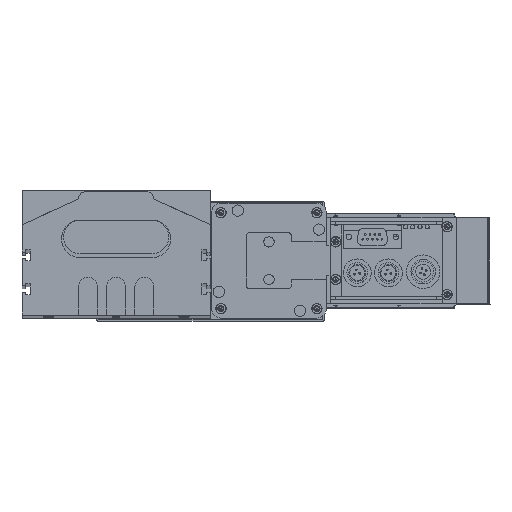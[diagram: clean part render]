
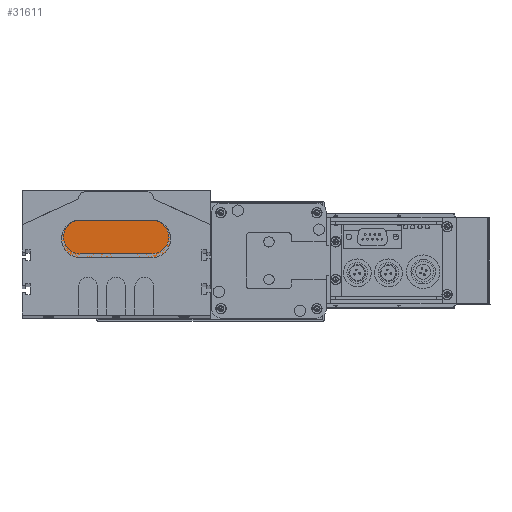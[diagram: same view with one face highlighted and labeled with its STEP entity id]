
A CAD part, top view. The second image highlights one B-rep face of the part: STEP entity #31611.
In plain terms, the highlighted planar face has unit normal (0, 0, 1).
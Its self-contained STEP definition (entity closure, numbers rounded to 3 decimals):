
#18985 = CARTESIAN_POINT ( 'NONE',  ( 38., 0., 10. ) ) ;
#19006 = CIRCLE ( 'NONE', #19052, 10. ) ;
#19010 = CARTESIAN_POINT ( 'NONE',  ( -10., 10., 10. ) ) ;
#19012 = DIRECTION ( 'NONE',  ( 1., 0., 0. ) ) ;
#19013 = DIRECTION ( 'NONE',  ( 0., 0., 1. ) ) ;
#19014 = CARTESIAN_POINT ( 'NONE',  ( 0., 10., 10. ) ) ;
#19018 = AXIS2_PLACEMENT_3D ( 'NONE', #19014, #19013, #19012 ) ;
#19023 = CIRCLE ( 'NONE', #19018, 10. ) ;
#19029 = CARTESIAN_POINT ( 'NONE',  ( 0., 20., 10. ) ) ;
#19050 = DIRECTION ( 'NONE',  ( 1., 0., 0. ) ) ;
#19051 = DIRECTION ( 'NONE',  ( 0., 0., 1. ) ) ;
#19052 = AXIS2_PLACEMENT_3D ( 'NONE', #19068, #19051, #19050 ) ;
#19061 = CARTESIAN_POINT ( 'NONE',  ( 0., 0., 10. ) ) ;
#19068 = CARTESIAN_POINT ( 'NONE',  ( 0., 10., 10. ) ) ;
#19070 = DIRECTION ( 'NONE',  ( -1., 0., 0. ) ) ;
#19071 = DIRECTION ( 'NONE',  ( 0., 0., 1. ) ) ;
#19074 = CARTESIAN_POINT ( 'NONE',  ( 38., 20., 10. ) ) ;
#19081 = CIRCLE ( 'NONE', #19084, 10. ) ;
#19084 = AXIS2_PLACEMENT_3D ( 'NONE', #19100, #19071, #19070 ) ;
#19085 = DIRECTION ( 'NONE',  ( -1., 0., 0. ) ) ;
#19086 = VECTOR ( 'NONE', #19085, 1000. ) ;
#19090 = DIRECTION ( 'NONE',  ( 1., 0., 0. ) ) ;
#19091 = VECTOR ( 'NONE', #19090, 1000. ) ;
#19092 = CARTESIAN_POINT ( 'NONE',  ( 0., 0., 10. ) ) ;
#19093 = LINE ( 'NONE', #19092, #19091 ) ;
#19098 = CARTESIAN_POINT ( 'NONE',  ( 0., 20., 10. ) ) ;
#19099 = LINE ( 'NONE', #19098, #19086 ) ;
#19100 = CARTESIAN_POINT ( 'NONE',  ( 38., 10., 10. ) ) ;
#19106 = FACE_OUTER_BOUND ( 'NONE', #31534, .T. ) ;
#19148 = DIRECTION ( 'NONE',  ( 1., 0., 0. ) ) ;
#19149 = DIRECTION ( 'NONE',  ( 0., 0., 1. ) ) ;
#19150 = CARTESIAN_POINT ( 'NONE',  ( 0., 10., 10. ) ) ;
#19157 = PLANE ( 'NONE',  #19161 ) ;
#19161 = AXIS2_PLACEMENT_3D ( 'NONE', #19150, #19149, #19148 ) ;
#31496 = VERTEX_POINT ( 'NONE', #18985 ) ;
#31509 = VERTEX_POINT ( 'NONE', #19029 ) ;
#31520 = EDGE_CURVE ( 'NONE', #31523, #31527, #19023, .T. ) ;
#31523 = VERTEX_POINT ( 'NONE', #19010 ) ;
#31527 = VERTEX_POINT ( 'NONE', #19061 ) ;
#31528 = EDGE_CURVE ( 'NONE', #31509, #31523, #19006, .T. ) ;
#31534 = EDGE_LOOP ( 'NONE', ( #31536, #31540, #31535, #31541, #31542 ) ) ;
#31535 = ORIENTED_EDGE ( 'NONE', *, *, #31558, .T. ) ;
#31536 = ORIENTED_EDGE ( 'NONE', *, *, #31528, .T. ) ;
#31540 = ORIENTED_EDGE ( 'NONE', *, *, #31520, .T. ) ;
#31541 = ORIENTED_EDGE ( 'NONE', *, *, #31568, .T. ) ;
#31542 = ORIENTED_EDGE ( 'NONE', *, *, #31559, .T. ) ;
#31558 = EDGE_CURVE ( 'NONE', #31527, #31496, #19093, .T. ) ;
#31559 = EDGE_CURVE ( 'NONE', #31569, #31509, #19099, .T. ) ;
#31568 = EDGE_CURVE ( 'NONE', #31496, #31569, #19081, .T. ) ;
#31569 = VERTEX_POINT ( 'NONE', #19074 ) ;
#31611 = ADVANCED_FACE ( 'NONE', ( #19106 ), #19157, .T. ) ;
